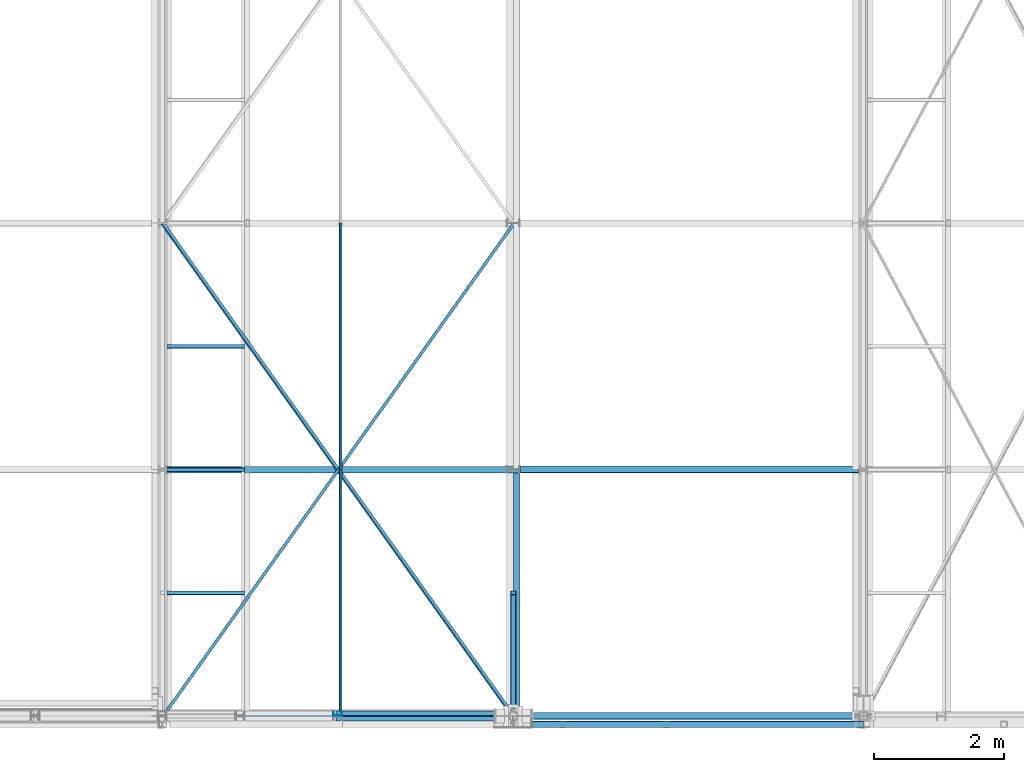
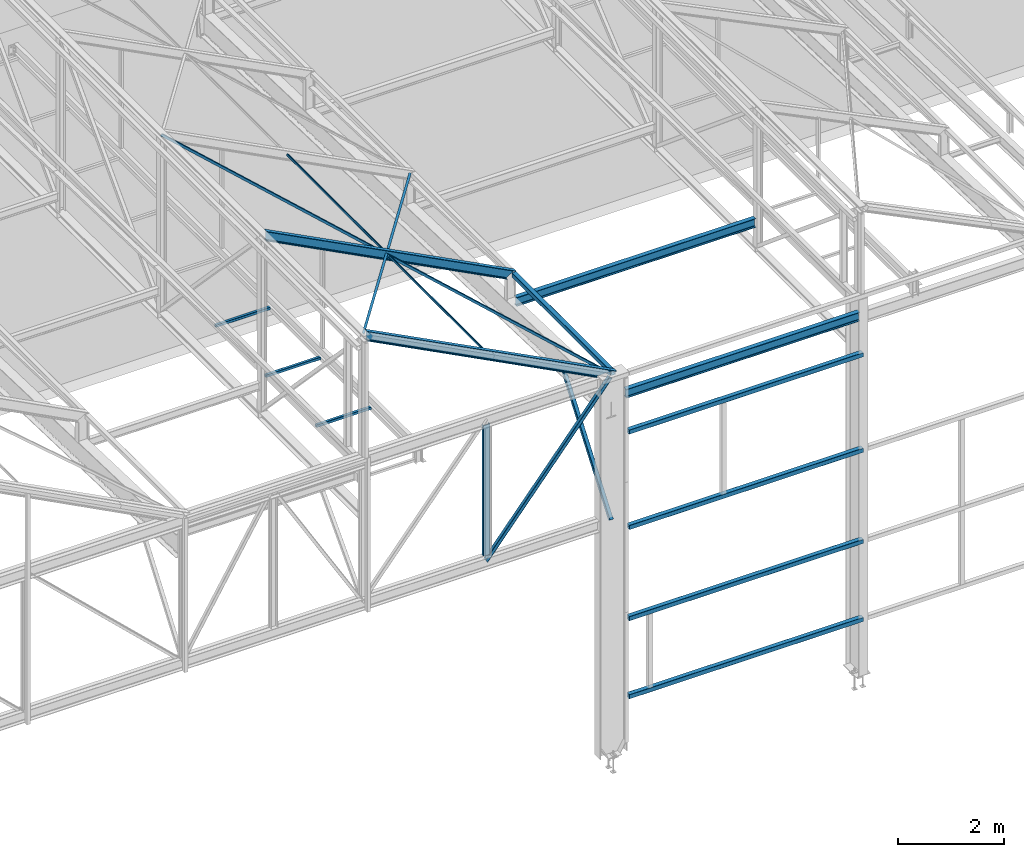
# One storey, part 32 of 123: 15 beams, 5 members, 20 elements without a shape of their own.
"""IFC2X3 building model written with IfcOpenShell, lengths in millimetres."""

import ifcopenshell
import ifcopenshell.guid

model = None  # the IFC model being written
_history = None  # IfcOwnerHistory: only IFC2X3 demands one
_inside = {}  # id of a spatial element -> (the spatial element, [elements in it])
_under = {}  # id of a project, library or spatial element -> (it, [spatial elements below it])
_declared = {}  # id of a project -> (the project, [libraries it declares])
_typed = {}  # id of a type object -> (the type object, [elements of that type])
_made_of = {}  # id of a material, layer set ... -> (it, [elements and type objects made of it])


def new_model(schema):
    """Start an empty IFC model of exactly this schema.

    Asked for "IFC4X3", IfcOpenShell would pick the latest addendum, in which some entities
    have other attributes; the version numbers below select the first issue.
    IFC2X3 requires an IfcOwnerHistory on every rooted entity: one is made here for all.
    """
    global model, _history
    if schema == "IFC4X3":
        model = ifcopenshell.file(schema_version=(4, 3, 0, 0))
    else:
        model = ifcopenshell.file(schema=schema)
    _inside.clear()
    _under.clear()
    _declared.clear()
    _typed.clear()
    _made_of.clear()
    _history = None
    if model.schema == "IFC2X3":
        org = make("IfcOrganization", Name="unknown")
        user = make(
            "IfcPersonAndOrganization",
            ThePerson=make("IfcPerson", FamilyName="unknown"),
            TheOrganization=org,
        )
        app = make(
            "IfcApplication",
            ApplicationDeveloper=org,
            Version="unknown",
            ApplicationFullName="unknown",
            ApplicationIdentifier="unknown",
        )
        _history = make(
            "IfcOwnerHistory",
            OwningUser=user,
            OwningApplication=app,
            ChangeAction="ADDED",
            CreationDate=0,
        )
    return model


def make(cls, **values):
    """One entity of the class cls with the attributes given. An attribute that is None is left unset."""
    return model.create_entity(
        cls, **{name: value for name, value in values.items() if value is not None}
    )


def rooted(cls, **values):
    """An entity with a GlobalId (a new one), such as an element, a storey or a relation."""
    return make(cls, GlobalId=ifcopenshell.guid.new(), OwnerHistory=_history, **values)


def si_unit(unit_type, name, prefix=None):
    """IfcSIUnit, for example si_unit("LENGTHUNIT", "METRE", prefix="MILLI")."""
    return make("IfcSIUnit", UnitType=unit_type, Prefix=prefix, Name=name)


def assignment(units):
    """IfcUnitAssignment: the units of a project."""
    return None if units is None else make("IfcUnitAssignment", Units=units)


def point(xyz):
    """IfcCartesianPoint."""
    return None if xyz is None else make("IfcCartesianPoint", Coordinates=xyz)


def direction(xyz):
    """IfcDirection."""
    return None if xyz is None else make("IfcDirection", DirectionRatios=xyz)


def frame(location, z_axis=None, x_axis=None):
    """IfcAxis2Placement3D, a coordinate frame: its origin and axes. An axis left out is left unset."""
    return make(
        "IfcAxis2Placement3D",
        Location=point(location),
        Axis=direction(z_axis),
        RefDirection=direction(x_axis),
    )


def frame_2d(location, x_axis=None):
    """IfcAxis2Placement2D, a coordinate frame in the plane: its origin and x axis."""
    return make(
        "IfcAxis2Placement2D", Location=point(location), RefDirection=direction(x_axis)
    )


def origin_with_axes():
    """The frame at (0, 0, 0) with the z axis (0, 0, 1) and the x axis (1, 0, 0) written out."""
    return frame((0.0, 0.0, 0.0), z_axis=(0.0, 0.0, 1.0), x_axis=(1.0, 0.0, 0.0))


def origin_2d_with_axis():
    """The frame at (0, 0) in the plane with the x axis (1, 0) written out."""
    return frame_2d((0.0, 0.0), x_axis=(1.0, 0.0))


def place(relative_to, where):
    """IfcLocalPlacement: puts the frame where relative to a parent placement (None: the world)."""
    return make(
        "IfcLocalPlacement", PlacementRelTo=relative_to, RelativePlacement=where
    )


def context(
    kind, dimensions, precision=None, world=None, true_north=None, identifier=None
):
    """IfcGeometricRepresentationContext, for example the 3D "Model" context."""
    return make(
        "IfcGeometricRepresentationContext",
        ContextIdentifier=identifier,
        ContextType=kind,
        CoordinateSpaceDimension=dimensions,
        Precision=precision,
        WorldCoordinateSystem=world,
        TrueNorth=true_north,
    )


def subcontext(parent, identifier, kind, view, scale=None):
    """IfcGeometricRepresentationSubContext, for example "Body" below "Model"."""
    return make(
        "IfcGeometricRepresentationSubContext",
        ContextIdentifier=identifier,
        ContextType=kind,
        ParentContext=parent,
        TargetScale=scale,
        TargetView=view,
    )


def project(units=None, contexts=None):
    """IfcProject with its units and contexts."""
    return rooted(
        "IfcProject",
        Name="project",
        RepresentationContexts=contexts,
        UnitsInContext=assignment(units),
    )


def spatial(cls, under=None, at=None, **own):
    """A site, building, storey or space (cls), placed at a placement, below another one or the project."""
    s = rooted(cls, ObjectPlacement=at, **own)
    if under is not None:
        _under.setdefault(under.id(), (under, []))[1].append(s)
    return s


def profile(cls, at=None, kind="AREA", **sizes):
    """A parametric profile (cls). Its sizes go by their IFC names, for example OverallWidth=200.0."""
    return make(cls, ProfileType=kind, Position=at, **sizes)


def hollow_rectangle(**sizes):
    """IfcRectangleHollowProfileDef."""
    return profile("IfcRectangleHollowProfileDef", **sizes)


def i_section(**sizes):
    """IfcIShapeProfileDef."""
    return profile("IfcIShapeProfileDef", **sizes)


def l_section(**sizes):
    """IfcLShapeProfileDef."""
    return profile("IfcLShapeProfileDef", **sizes)


def u_section(**sizes):
    """IfcUShapeProfileDef."""
    return profile("IfcUShapeProfileDef", **sizes)


def extrude(swept, where, along, depth):
    """IfcExtrudedAreaSolid: the profile swept, set in the frame where, extruded along a direction by depth."""
    return make(
        "IfcExtrudedAreaSolid",
        SweptArea=swept,
        Position=where,
        ExtrudedDirection=direction(along),
        Depth=depth,
    )


def clip(a, b, op="DIFFERENCE"):
    """IfcBooleanClippingResult: the solid a cut by the half space b."""
    return make(
        "IfcBooleanClippingResult", Operator=op, FirstOperand=a, SecondOperand=b
    )


def halfspace(plane, agree):
    """IfcHalfSpaceSolid: all space on one side of the plane z = 0 of the frame plane."""
    return make(
        "IfcHalfSpaceSolid",
        BaseSurface=make("IfcPlane", Position=plane),
        AgreementFlag=agree,
    )


def shape(context_of_items, identifier, shape_type, items):
    """IfcShapeRepresentation: the items that make up one representation, for example the "Body"."""
    return make(
        "IfcShapeRepresentation",
        ContextOfItems=context_of_items,
        RepresentationIdentifier=identifier,
        RepresentationType=shape_type,
        Items=items,
    )


def material(Name=None, Category=None):
    """IfcMaterial."""
    return make("IfcMaterial", Name=Name, Category=Category)


def made_of(thing, what):
    """Note that an element or type object is made of a material, layer set ...; save() writes the relation."""
    if what is not None:
        _made_of.setdefault(what.id(), (what, []))[1].append(thing)
    return thing


def type_object(cls, material=None, **own):
    """A type object (cls), such as IfcWallType, which elements share."""
    return made_of(rooted(cls, **own), material)


def element(
    cls,
    number,
    at=None,
    inside=None,
    cuts=None,
    type_object=None,
    material=None,
    context=None,
    identifier="Body",
    shape_type=None,
    held_by="IfcProductDefinitionShape",
    body=None,
    shapes=None,
    **own,
):
    """One element of the class cls, such as IfcWall. Its Tag is "e" and its number.

    at: its placement. inside: the storey or other place that contains it. cuts: it is an
    opening in that element (IfcRelVoidsElement). A single representation is given by context,
    identifier, shape_type and body (its items); several are given by shapes. held_by: the class
    of the entity that holds the representations. save() writes the other relations.
    """
    e = rooted(cls, Tag="e%d" % number, ObjectPlacement=at, **own)
    if body is not None:
        shapes = [shape(context, identifier, shape_type, body)]
    if shapes is not None:
        e.Representation = make(held_by, Representations=shapes)
    if inside is not None:
        _inside.setdefault(inside.id(), (inside, []))[1].append(e)
    if cuts is not None:
        rooted(
            "IfcRelVoidsElement", RelatingBuildingElement=cuts, RelatedOpeningElement=e
        )
    if type_object is not None:
        _typed.setdefault(type_object.id(), (type_object, []))[1].append(e)
    return made_of(e, material)


def aggregate(whole, parts):
    """IfcRelAggregates: a whole, such as a stair, and the parts it consists of."""
    return rooted("IfcRelAggregates", RelatingObject=whole, RelatedObjects=parts)


def save(model, path):
    """Write the relations noted so far, then the file.

    IfcRelAggregates (storeys below a building ...), IfcRelContainedInSpatialStructure (elements
    in a storey), IfcRelDefinesByType, IfcRelAssociatesMaterial and IfcRelDeclares: one each for
    every whole, place, type object, material and project.
    """
    for whole, parts in _under.values():
        aggregate(whole, parts)
    for where, things in _inside.values():
        rooted(
            "IfcRelContainedInSpatialStructure",
            RelatedElements=things,
            RelatingStructure=where,
        )
    for kind, things in _typed.values():
        rooted("IfcRelDefinesByType", RelatedObjects=things, RelatingType=kind)
    for what, things in _made_of.values():
        rooted("IfcRelAssociatesMaterial", RelatedObjects=things, RelatingMaterial=what)
    for by, libraries in _declared.values():
        rooted("IfcRelDeclares", RelatingContext=by, RelatedDefinitions=libraries)
    model.write(path)


model = new_model("IFC2X3")

# Units and contexts
model_context = context("Model", 3, precision=1e-05, world=origin_with_axes())
body_context = subcontext(model_context, "Body", "Model", "MODEL_VIEW")
ifc_project = project(units=[si_unit("LENGTHUNIT", "METRE", prefix="MILLI"), si_unit("AREAUNIT", "SQUARE_METRE"), si_unit("VOLUMEUNIT", "CUBIC_METRE"), si_unit("MASSUNIT", "GRAM", prefix="KILO"), si_unit("TIMEUNIT", "SECOND"), si_unit("PLANEANGLEUNIT", "RADIAN"), si_unit("SOLIDANGLEUNIT", "STERADIAN"), si_unit("THERMODYNAMICTEMPERATUREUNIT", "DEGREE_CELSIUS"), si_unit("LUMINOUSINTENSITYUNIT", "LUMEN")], contexts=[model_context])

# Site, building, storey
site_placement = place(None, origin_with_axes())
site = spatial("IfcSite", under=ifc_project, at=site_placement, Name="Undefined", CompositionType="ELEMENT")
building_placement = place(site_placement, origin_with_axes())
building = spatial("IfcBuilding", under=site, at=building_placement, Name="Undefined", CompositionType="ELEMENT")
storey_placement = place(building_placement, origin_with_axes())
storey = spatial("IfcBuildingStorey", under=building, at=storey_placement, Name="Undefined", CompositionType="ELEMENT", Elevation=0.0)

# Assembly, member
assembly_1_placement = place(storey_placement, origin_with_axes())
assembly_1 = element("IfcElementAssembly", 1, at=assembly_1_placement, inside=storey, Name="Steel Assembly", AssemblyPlace="NOTDEFINED", PredefinedType="RIGID_FRAME")
ifc_material_1 = material(Name="STEEL/S235-E24")
member_type_1 = type_object("IfcMemberType", Name="L70*7", PredefinedType="NOTDEFINED")
member_1_placement = place(assembly_1_placement, frame((26174.995635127, 40.0000000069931, 5130.0091531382), z_axis=(0.771538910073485, 0.0, -0.636182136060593), x_axis=(0.636182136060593, 0.0, 0.771538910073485)))
member_1 = element("IfcMember", 2, at=member_1_placement, type_object=member_type_1, material=ifc_material_1, Name="DIAGONALE", ObjectType="L70*7", context=body_context, shape_type="SweptSolid", body=[
    extrude(l_section(Depth=70.0, Width=70.0, Thickness=7.0, FilletRadius=9.0, EdgeRadius=4.5, at=origin_2d_with_axis()), frame((4251.51603167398, 0.0, -2.36006549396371e-13), z_axis=(-1.0, 0.0, 0.0), x_axis=(0.0, -1.0, 0.0)), (0.0, 0.0, 1.0), 4251.5),
])
aggregate(assembly_1, [member_1])

assembly_2_placement = place(storey_placement, origin_with_axes())
assembly_2 = element("IfcElementAssembly", 3, at=assembly_2_placement, inside=storey, Name="Steel Assembly", AssemblyPlace="NOTDEFINED", PredefinedType="RIGID_FRAME")
member_2_placement = place(assembly_2_placement, frame((28879.7341867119, -40.0000000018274, 8410.21919668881), z_axis=(0.771538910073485, 0.0, -0.636182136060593), x_axis=(-0.636182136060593, 0.0, -0.771538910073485)))
member_2 = element("IfcMember", 4, at=member_2_placement, type_object=member_type_1, material=ifc_material_1, Name="DIAGONALE", ObjectType="L70*7", context=body_context, shape_type="SweptSolid", body=[
    extrude(l_section(Depth=70.0, Width=70.0, Thickness=7.0, FilletRadius=9.0, EdgeRadius=4.5, at=origin_2d_with_axis()), frame((4251.51603167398, 0.0, -2.36006549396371e-13), z_axis=(-1.0, 0.0, 0.0), x_axis=(0.0, -1.0, 0.0)), (0.0, 0.0, 1.0), 4251.5),
])
aggregate(assembly_2, [member_2])

# Assembly, beam
assembly_3_placement = place(storey_placement, origin_with_axes())
assembly_3 = element("IfcElementAssembly", 5, at=assembly_3_placement, inside=storey, Name="Steel Assembly", AssemblyPlace="NOTDEFINED", PredefinedType="RIGID_FRAME")
ifc_material_2 = material(Name="STEEL/S275-E28")
beam_type_1 = type_object("IfcBeamType", Name="UPN140", PredefinedType="NOTDEFINED")
beam_1_placement = place(assembly_3_placement, frame((26175.0, 35.0, 8269.99444626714), z_axis=(-1.0, 0.0, 0.0), x_axis=(0.0, 0.0, -1.0)))
beam_1 = element("IfcBeam", 6, at=beam_1_placement, type_object=beam_type_1, material=ifc_material_2, Name="MONTANT", ObjectType="UPN140", context=body_context, shape_type="SweptSolid", body=[
    extrude(u_section(Depth=140.0, FlangeWidth=60.0, WebThickness=7.0, FlangeThickness=10.0, FilletRadius=10.0, EdgeRadius=5.0, FlangeSlope=0.0798299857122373, at=origin_2d_with_axis()), frame((3009.99444626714, 0.0, 0.0), z_axis=(-1.0, 0.0, 0.0), x_axis=(0.0, -1.0, 0.0)), (0.0, 0.0, 1.0), 3010.0),
])
aggregate(assembly_3, [beam_1])

assembly_4_placement = place(storey_placement, origin_with_axes())
assembly_4 = element("IfcElementAssembly", 7, at=assembly_4_placement, inside=storey, Name="Steel Assembly", AssemblyPlace="NOTDEFINED", PredefinedType="RIGID_FRAME")
beam_type_2 = type_object("IfcBeamType", Name="TUBE-C-60*60*3", PredefinedType="NOTDEFINED")
beam_2_placement = place(assembly_4_placement, frame((23541.500056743, 5700.0, 8015.0), z_axis=(0.0, -1.0, 0.0), x_axis=(1.0, 0.0, 0.0)))
beam_2 = element("IfcBeam", 8, at=beam_2_placement, type_object=beam_type_2, material=ifc_material_1, Name="SOLIVE", ObjectType="TUBE-C-60*60*3", context=body_context, shape_type="SweptSolid", body=[
    extrude(hollow_rectangle(XDim=60.0, YDim=60.0, WallThickness=3.0, InnerFilletRadius=3.0, OuterFilletRadius=6.0, at=origin_2d_with_axis()), frame((1194.99154388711, 0.0, 0.0), z_axis=(-1.0, 0.0, 0.0), x_axis=(0.0, -1.0, 0.0)), (0.0, 0.0, 1.0), 1195.0),
])
aggregate(assembly_4, [beam_2])

assembly_5_placement = place(storey_placement, origin_with_axes())
assembly_5 = element("IfcElementAssembly", 9, at=assembly_5_placement, inside=storey, Name="Steel Assembly", AssemblyPlace="NOTDEFINED", PredefinedType="RIGID_FRAME")
beam_3_placement = place(assembly_5_placement, frame((23541.500056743, 1900.0, 8015.0), z_axis=(0.0, -1.0, 0.0), x_axis=(1.0, 0.0, 0.0)))
beam_3 = element("IfcBeam", 10, at=beam_3_placement, type_object=beam_type_2, material=ifc_material_1, Name="SOLIVE", ObjectType="TUBE-C-60*60*3", context=body_context, shape_type="SweptSolid", body=[
    extrude(hollow_rectangle(XDim=60.0, YDim=60.0, WallThickness=3.0, InnerFilletRadius=3.0, OuterFilletRadius=6.0, at=origin_2d_with_axis()), frame((1194.99154388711, 0.0, 0.0), z_axis=(-1.0, 0.0, 0.0), x_axis=(0.0, -1.0, 0.0)), (0.0, 0.0, 1.0), 1195.0),
])
aggregate(assembly_5, [beam_3])

assembly_6_placement = place(storey_placement, origin_with_axes())
assembly_6 = element("IfcElementAssembly", 11, at=assembly_6_placement, inside=storey, Name="Steel Assembly", AssemblyPlace="NOTDEFINED", PredefinedType="RIGID_FRAME")
beam_4_placement = place(assembly_6_placement, frame((23541.500056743, 3800.0, 8015.0), z_axis=(0.0, -1.0, 0.0), x_axis=(1.0, 0.0, 0.0)))
beam_4 = element("IfcBeam", 12, at=beam_4_placement, type_object=beam_type_2, material=ifc_material_1, Name="SOLIVE", ObjectType="TUBE-C-60*60*3", context=body_context, shape_type="SweptSolid", body=[
    extrude(hollow_rectangle(XDim=60.0, YDim=60.0, WallThickness=3.0, InnerFilletRadius=3.0, OuterFilletRadius=6.0, at=origin_2d_with_axis()), frame((1194.99154388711, 0.0, 0.0), z_axis=(-1.0, 0.0, 0.0), x_axis=(0.0, -1.0, 0.0)), (0.0, 0.0, 1.0), 1195.0),
])
aggregate(assembly_6, [beam_4])

assembly_7_placement = place(storey_placement, origin_with_axes())
assembly_7 = element("IfcElementAssembly", 13, at=assembly_7_placement, inside=storey, Name="Steel Assembly", AssemblyPlace="NOTDEFINED", PredefinedType="RIGID_FRAME")
beam_type_3 = type_object("IfcBeamType", Name="TUBE-C-100*100*4", PredefinedType="NOTDEFINED")
beam_5_placement = place(assembly_7_placement, frame((29180.0000019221, -129.999823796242, 7150.0), z_axis=(0.0, 0.0, -1.0), x_axis=(1.0, 0.0, 0.0)))
beam_5 = element("IfcBeam", 14, at=beam_5_placement, type_object=beam_type_3, material=ifc_material_1, Name="LISSE CHASSIS", ObjectType="TUBE-C-100*100*4", context=body_context, shape_type="SweptSolid", body=[
    extrude(hollow_rectangle(XDim=100.0, YDim=100.0, WallThickness=4.0, InnerFilletRadius=4.0, OuterFilletRadius=8.0, at=origin_2d_with_axis()), frame((5099.99999787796, 0.0, 0.0), z_axis=(-1.0, 0.0, 0.0), x_axis=(0.0, -1.0, 0.0)), (0.0, 0.0, 1.0), 5100.0),
])
aggregate(assembly_7, [beam_5])

assembly_8_placement = place(storey_placement, origin_with_axes())
assembly_8 = element("IfcElementAssembly", 15, at=assembly_8_placement, inside=storey, Name="Steel Assembly", AssemblyPlace="NOTDEFINED", PredefinedType="RIGID_FRAME")
beam_6_placement = place(assembly_8_placement, frame((29180.000001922, -129.999823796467, 4949.99999999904), z_axis=(0.0, 0.0, 1.0), x_axis=(1.0, 0.0, 0.0)))
beam_6 = element("IfcBeam", 16, at=beam_6_placement, type_object=beam_type_3, material=ifc_material_1, Name="LISSE CHASSIS", ObjectType="TUBE-C-100*100*4", context=body_context, shape_type="SweptSolid", body=[
    extrude(hollow_rectangle(XDim=100.0, YDim=100.0, WallThickness=4.0, InnerFilletRadius=4.0, OuterFilletRadius=8.0, at=origin_2d_with_axis()), frame((5099.99999787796, 0.0, 0.0), z_axis=(-1.0, 0.0, 0.0), x_axis=(0.0, -1.0, 0.0)), (0.0, 0.0, 1.0), 5100.0),
])
aggregate(assembly_8, [beam_6])

assembly_9_placement = place(storey_placement, origin_with_axes())
assembly_9 = element("IfcElementAssembly", 17, at=assembly_9_placement, inside=storey, Name="Steel Assembly", AssemblyPlace="NOTDEFINED", PredefinedType="RIGID_FRAME")
beam_7_placement = place(assembly_9_placement, frame((29180.0000019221, -129.999823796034, 2850.0), z_axis=(0.0, 0.0, -1.0), x_axis=(1.0, 0.0, 0.0)))
beam_7 = element("IfcBeam", 18, at=beam_7_placement, type_object=beam_type_3, material=ifc_material_1, Name="LISSE CHASSIS", ObjectType="TUBE-C-100*100*4", context=body_context, shape_type="SweptSolid", body=[
    extrude(hollow_rectangle(XDim=100.0, YDim=100.0, WallThickness=4.0, InnerFilletRadius=4.0, OuterFilletRadius=8.0, at=origin_2d_with_axis()), frame((5099.99999787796, 0.0, 0.0), z_axis=(-1.0, 0.0, 0.0), x_axis=(0.0, -1.0, 0.0)), (0.0, 0.0, 1.0), 5100.0),
])
aggregate(assembly_9, [beam_7])

assembly_10_placement = place(storey_placement, origin_with_axes())
assembly_10 = element("IfcElementAssembly", 19, at=assembly_10_placement, inside=storey, Name="Steel Assembly", AssemblyPlace="NOTDEFINED", PredefinedType="RIGID_FRAME")
beam_8_placement = place(assembly_10_placement, frame((29180.000001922, -129.999823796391, 1049.99999999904), z_axis=(0.0, 0.0, 1.0), x_axis=(1.0, 0.0, 0.0)))
beam_8 = element("IfcBeam", 20, at=beam_8_placement, type_object=beam_type_3, material=ifc_material_1, Name="LISSE CHASSIS", ObjectType="TUBE-C-100*100*4", context=body_context, shape_type="SweptSolid", body=[
    extrude(hollow_rectangle(XDim=100.0, YDim=100.0, WallThickness=4.0, InnerFilletRadius=4.0, OuterFilletRadius=8.0, at=origin_2d_with_axis()), frame((5099.99999787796, 0.0, 0.0), z_axis=(-1.0, 0.0, 0.0), x_axis=(0.0, -1.0, 0.0)), (0.0, 0.0, 1.0), 5100.0),
])
aggregate(assembly_10, [beam_8])

assembly_11_placement = place(storey_placement, origin_with_axes())
assembly_11 = element("IfcElementAssembly", 21, at=assembly_11_placement, inside=storey, Name="Steel Assembly", AssemblyPlace="NOTDEFINED", PredefinedType="RIGID_FRAME")
beam_9_placement = place(assembly_11_placement, frame((28929.9999999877, 0.0, 8500.0), z_axis=(0.0, 0.0, 1.0), x_axis=(0.0, 1.0, 0.0)))
beam_9 = element("IfcBeam", 22, at=beam_9_placement, type_object=beam_type_3, material=ifc_material_1, Name="LISSE ACROTERE", ObjectType="TUBE-C-100*100*4", context=body_context, shape_type="SweptSolid", body=[
    extrude(hollow_rectangle(XDim=100.0, YDim=100.0, WallThickness=4.0, InnerFilletRadius=4.0, OuterFilletRadius=8.0, at=origin_2d_with_axis()), frame((3745.0, 0.0, 0.0), z_axis=(-1.0, 0.0, 0.0), x_axis=(0.0, -1.0, 0.0)), (0.0, 0.0, 1.0), 3745.0),
])
aggregate(assembly_11, [beam_9])

# Assembly, member
assembly_12_placement = place(storey_placement, origin_with_axes())
assembly_12 = element("IfcElementAssembly", 23, at=assembly_12_placement, inside=storey, Name="Steel Assembly", AssemblyPlace="NOTDEFINED", PredefinedType="RIGID_FRAME")
member_type_2 = type_object("IfcMemberType", Name="TUBE-C-80*80*4", PredefinedType="NOTDEFINED")
member_3_placement = place(assembly_12_placement, frame((28880.0, 1900.00000000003, 7658.48293373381), z_axis=(1.0, 0.0, 0.0), x_axis=(0.0, -0.600735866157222, -0.799447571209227)))
member_3 = element("IfcMember", 24, at=member_3_placement, type_object=member_type_2, material=ifc_material_1, Name="BUTON", ObjectType="TUBE-C-80*80*4", context=body_context, shape_type="SweptSolid", body=[
    extrude(hollow_rectangle(XDim=80.0, YDim=80.0, WallThickness=4.0, InnerFilletRadius=4.0, OuterFilletRadius=8.0, at=origin_2d_with_axis()), frame((3162.78768591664, 0.0, 0.0), z_axis=(-1.0, 0.0, 0.0), x_axis=(0.0, -1.0, 0.0)), (0.0, 0.0, 1.0), 3162.8),
])
aggregate(assembly_12, [member_3])

# Assembly, beam
assembly_13_placement = place(storey_placement, origin_with_axes())
assembly_13 = element("IfcElementAssembly", 25, at=assembly_13_placement, inside=storey, Name="Steel Assembly", AssemblyPlace="NOTDEFINED", PredefinedType="RIGID_FRAME")
beam_type_4 = type_object("IfcBeamType", Name="L50*5", PredefinedType="NOTDEFINED")
beam_10_placement = place(assembly_13_placement, frame((28880.000000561, 7600.0000000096, 8489.19082996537), z_axis=(-0.692721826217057, 0.625522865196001, 0.358967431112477), x_axis=(-0.555383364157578, -0.780205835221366, 0.287798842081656)))
beam_10 = element("IfcBeam", 26, at=beam_10_placement, type_object=beam_type_4, material=ifc_material_1, Name="STABILITE CVT", ObjectType="L50*5", context=body_context, shape_type="SweptSolid", body=[
    extrude(l_section(Depth=50.0, Width=50.0, Thickness=5.0, FilletRadius=7.0, EdgeRadius=3.5, at=origin_2d_with_axis()), frame((9741.01917541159, 5.40735188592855e-13, 0.0), z_axis=(-1.0, 0.0, 0.0), x_axis=(0.0, -1.0, 0.0)), (0.0, 0.0, 1.0), 9741.0),
])
aggregate(assembly_13, [beam_10])

assembly_14_placement = place(storey_placement, origin_with_axes())
assembly_14 = element("IfcElementAssembly", 27, at=assembly_14_placement, inside=storey, Name="Steel Assembly", AssemblyPlace="NOTDEFINED", PredefinedType="RIGID_FRAME")
beam_11_placement = place(assembly_14_placement, frame((28880.0, -1.65255187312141e-09, 8489.19083026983), z_axis=(0.692721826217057, 0.625522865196, -0.358967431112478), x_axis=(-0.555383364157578, 0.780205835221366, 0.287798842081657)))
beam_11 = element("IfcBeam", 28, at=beam_11_placement, type_object=beam_type_4, material=ifc_material_1, Name="STABILITE CVT", ObjectType="L50*5", context=body_context, shape_type="SweptSolid", body=[
    extrude(l_section(Depth=50.0, Width=50.0, Thickness=5.0, FilletRadius=7.0, EdgeRadius=3.5, at=origin_2d_with_axis()), frame((9741.01917541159, 5.40735188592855e-13, 0.0), z_axis=(-1.0, 0.0, 0.0), x_axis=(0.0, -1.0, 0.0)), (0.0, 0.0, 1.0), 9741.0),
])
aggregate(assembly_14, [beam_11])

assembly_15_placement = place(storey_placement, origin_with_axes())
assembly_15 = element("IfcElementAssembly", 29, at=assembly_15_placement, inside=storey, Name="Steel Assembly", AssemblyPlace="NOTDEFINED", PredefinedType="RIGID_FRAME")
beam_type_5 = type_object("IfcBeamType", Name="TUBE-C-40*40*4", PredefinedType="NOTDEFINED")
beam_12_placement = place(assembly_15_placement, frame((26213.9906763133, 3799.9999998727, 9870.71294031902), z_axis=(-0.887870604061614, 0.0, 0.460093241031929), x_axis=(0.0, -1.0, 0.0)))
beam_12 = element("IfcBeam", 30, at=beam_12_placement, type_object=beam_type_5, material=ifc_material_1, Name="BUTON", ObjectType="TUBE-C-40*40*4", context=body_context, shape_type="SweptSolid", body=[
    extrude(hollow_rectangle(XDim=40.0, YDim=40.0, WallThickness=4.0, InnerFilletRadius=4.0, OuterFilletRadius=8.0, at=origin_2d_with_axis()), frame((3799.99999999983, 0.0, 0.0), z_axis=(-1.0, 0.0, 0.0), x_axis=(0.0, -1.0, 0.0)), (0.0, 0.0, 1.0), 3800.0),
])
aggregate(assembly_15, [beam_12])

assembly_16_placement = place(storey_placement, origin_with_axes())
assembly_16 = element("IfcElementAssembly", 31, at=assembly_16_placement, inside=storey, Name="Steel Assembly", AssemblyPlace="NOTDEFINED", PredefinedType="RIGID_FRAME")
beam_13_placement = place(assembly_16_placement, frame((26213.9906763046, 7600.00000000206, 9870.71294031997), z_axis=(-0.887870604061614, 0.0, 0.460093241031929), x_axis=(0.0, -1.0, 0.0)))
beam_13 = element("IfcBeam", 32, at=beam_13_placement, type_object=beam_type_5, material=ifc_material_1, Name="BUTON", ObjectType="TUBE-C-40*40*4", context=body_context, shape_type="SweptSolid", body=[
    extrude(hollow_rectangle(XDim=40.0, YDim=40.0, WallThickness=4.0, InnerFilletRadius=4.0, OuterFilletRadius=8.0, at=origin_2d_with_axis()), frame((3799.99999999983, 0.0, 0.0), z_axis=(-1.0, 0.0, 0.0), x_axis=(0.0, -1.0, 0.0)), (0.0, 0.0, 1.0), 3800.0),
])
aggregate(assembly_16, [beam_13])

# Assembly, member
assembly_17_placement = place(storey_placement, origin_with_axes())
assembly_17 = element("IfcElementAssembly", 33, at=assembly_17_placement, inside=storey, Name="Steel Assembly", AssemblyPlace="NOTDEFINED", PredefinedType="RIGID_FRAME")
member_type_3 = type_object("IfcMemberType", Name="IPE200", PredefinedType="NOTDEFINED")
member_4_placement = place(assembly_17_placement, frame((23493.9906758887, -3.18409305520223e-09, 11280.2129395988), z_axis=(0.46009324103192, -7.00000004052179e-09, 0.887870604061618), x_axis=(0.887870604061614, 0.0, -0.460093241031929)))
member_4 = element("IfcMember", 34, at=member_4_placement, type_object=member_type_3, material=ifc_material_2, Name="TRAVERSE SHED", ObjectType="IPE200", context=body_context, shape_type="Clipping", body=[
    clip(clip(extrude(i_section(OverallWidth=100.0, OverallDepth=200.0, WebThickness=5.599999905, FlangeThickness=8.5, FilletRadius=12.0, at=origin_2d_with_axis()), frame((6181.28674949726, 0.0, 0.0), z_axis=(-1.0, 0.0, 0.0), x_axis=(0.0, -1.0, 0.0)), (0.0, 0.0, 1.0), 6376.7), halfspace(frame((5359.43342044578, 3.18409305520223e-09, -297.761684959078), z_axis=(-0.460093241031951, 0.0, 0.887870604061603), x_axis=(0.0, -1.0, 0.0)), True)), halfspace(frame((0.0, 0.0, 100.0), z_axis=(-0.887870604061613, 0.0, -0.460093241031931), x_axis=(0.0, -1.0, 0.0)), False)),
])
aggregate(assembly_17, [member_4])

assembly_18_placement = place(storey_placement, origin_with_axes())
assembly_18 = element("IfcElementAssembly", 35, at=assembly_18_placement, inside=storey, Name="Steel Assembly", AssemblyPlace="NOTDEFINED", PredefinedType="RIGID_FRAME")
member_5_placement = place(assembly_18_placement, frame((23493.9906758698, 3799.99999999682, 11280.2129396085), z_axis=(0.46009324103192, -7.00000004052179e-09, 0.887870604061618), x_axis=(0.887870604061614, 0.0, -0.460093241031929)))
member_5 = element("IfcMember", 36, at=member_5_placement, type_object=member_type_3, material=ifc_material_2, Name="TRAVERSE SHED", ObjectType="IPE200", context=body_context, shape_type="Clipping", body=[
    clip(clip(extrude(i_section(OverallWidth=100.0, OverallDepth=200.0, WebThickness=5.599999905, FlangeThickness=8.5, FilletRadius=12.0, at=origin_2d_with_axis()), frame((6236.48041099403, 3.63797880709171e-12, 3.63797880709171e-12), z_axis=(-1.0, 0.0, 0.0), x_axis=(0.0, -1.0, 0.0)), (0.0, 0.0, 1.0), 6354.9), halfspace(frame((6005.40058860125, 3.18459569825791e-09, -100.0), z_axis=(0.854427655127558, 0.0, -0.519570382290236), x_axis=(0.0, -1.0, 0.0)), False)), halfspace(frame((0.0, 0.0, 100.0), z_axis=(-0.887870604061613, 0.0, -0.460093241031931), x_axis=(0.0, -1.0, 0.0)), False)),
])
aggregate(assembly_18, [member_5])

# Assembly, beam
assembly_19_placement = place(storey_placement, origin_with_axes())
assembly_19 = element("IfcElementAssembly", 37, at=assembly_19_placement, inside=storey, Name="Steel Assembly", AssemblyPlace="NOTDEFINED", PredefinedType="RIGID_FRAME")
beam_type_6 = type_object("IfcBeamType", Name="IPE200", PredefinedType="NOTDEFINED")
beam_14_placement = place(assembly_19_placement, frame((28994.9999999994, 3799.9999999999, 7830.53220712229), z_axis=(0.0, 0.0314107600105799, 0.999506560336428), x_axis=(1.0, 0.0, 0.0)))
beam_14 = element("IfcBeam", 38, at=beam_14_placement, type_object=beam_type_6, material=ifc_material_2, Name="PANNE", ObjectType="IPE200", context=body_context, shape_type="SweptSolid", body=[
    extrude(i_section(OverallWidth=100.0, OverallDepth=200.0, WebThickness=5.599999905, FlangeThickness=8.5, FilletRadius=12.0, at=origin_2d_with_axis()), frame((5209.99999999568, 0.0, 0.0), z_axis=(-1.0, 0.0, 0.0), x_axis=(0.0, -1.0, 0.0)), (0.0, 0.0, 1.0), 5210.0),
])
aggregate(assembly_19, [beam_14])

assembly_20_placement = place(storey_placement, origin_with_axes())
assembly_20 = element("IfcElementAssembly", 39, at=assembly_20_placement, inside=storey, Name="Steel Assembly", AssemblyPlace="NOTDEFINED", PredefinedType="RIGID_FRAME")
beam_15_placement = place(assembly_20_placement, frame((29190.0, -1.5756995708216e-10, 7949.95250495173), z_axis=(0.0, 0.0314107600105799, 0.999506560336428), x_axis=(1.0, 0.0, 0.0)))
beam_15 = element("IfcBeam", 40, at=beam_15_placement, type_object=beam_type_6, material=ifc_material_2, Name="PANNE", ObjectType="IPE200", context=body_context, shape_type="SweptSolid", body=[
    extrude(i_section(OverallWidth=100.0, OverallDepth=200.0, WebThickness=5.599999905, FlangeThickness=8.5, FilletRadius=12.0, at=origin_2d_with_axis()), frame((5090.00000000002, 0.0, 0.0), z_axis=(-1.0, 0.0, 0.0), x_axis=(0.0, -1.0, 0.0)), (0.0, 0.0, 1.0), 5090.0),
])
aggregate(assembly_20, [beam_15])

save(model, "model.ifc")
